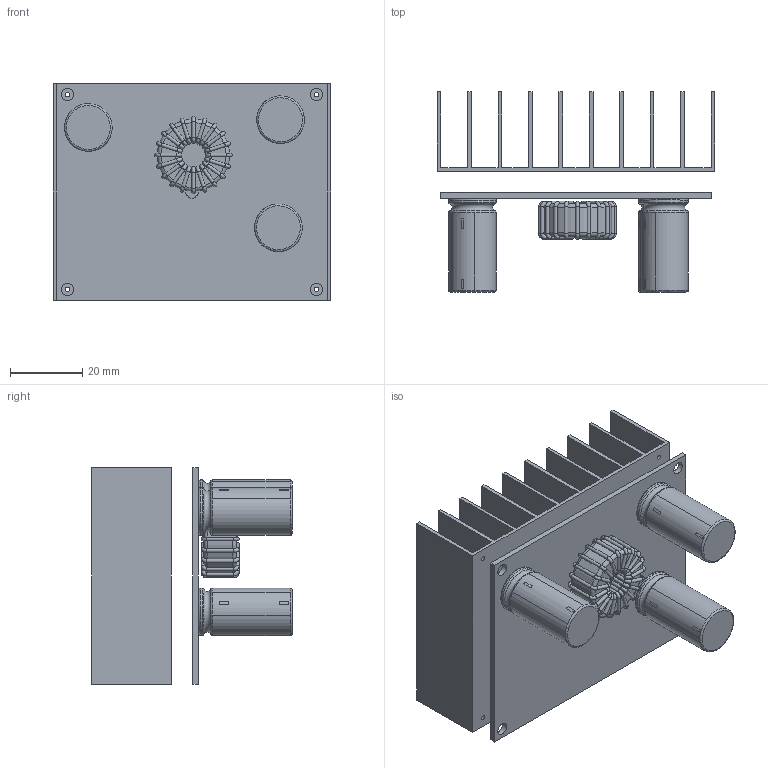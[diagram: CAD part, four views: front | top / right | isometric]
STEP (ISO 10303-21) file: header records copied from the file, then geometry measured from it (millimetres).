
FILE_DESCRIPTION(('FreeCAD Model'),'2;1');
FILE_NAME('Open CASCADE Shape Model','2023-05-06T18:44:57',('Author'),( ''),'Open CASCADE STEP processor 7.5','FreeCAD','Unknown');
FILE_SCHEMA(('AUTOMOTIVE_DESIGN { 1 0 10303 214 1 1 1 1 }'));
Length unit declared in the file: millimetre
Products named in the file (5): raiator_yhd11003b; tor_tor2; Part5^Assem_YHD11003B; dc-dc YHD11003B; capacitors_100v 330uF
Assembly tree (6 placements, depth 2):
  dc-dc YHD11003B
    raiator_yhd11003b
    Part5^Assem_YHD11003B
    capacitors_100v 330uF  x3
    tor_tor2
Bounding box: 77 x 55.5 x 60 mm (x, y, z)
Volume: 37181.2 mm3; surface area: 51752 mm2
Topology: 26 solids, 26 shells, 273 faces, 629 edges, 380 vertices
Faces by surface type: cylinder 118, torus 99, plane 56
Full cylindrical faces by diameter (mm): 1 x80, 1.2 x4, 3.4 x5, 8 x1, 13.2 x3, 20 x1
Entity records: 8015 total; most frequent: DIRECTION 1060, CARTESIAN_POINT 906, ORIENTED_EDGE 704, AXIS2_PLACEMENT_3D 458, EDGE_LOOP 446, FACE_OUTER_BOUND 422, EDGE_CURVE 352, VERTEX_POINT 304
